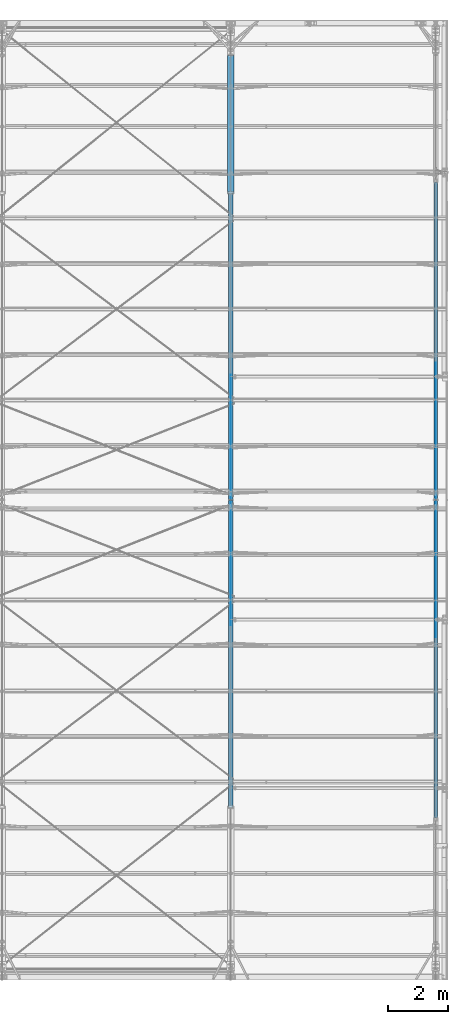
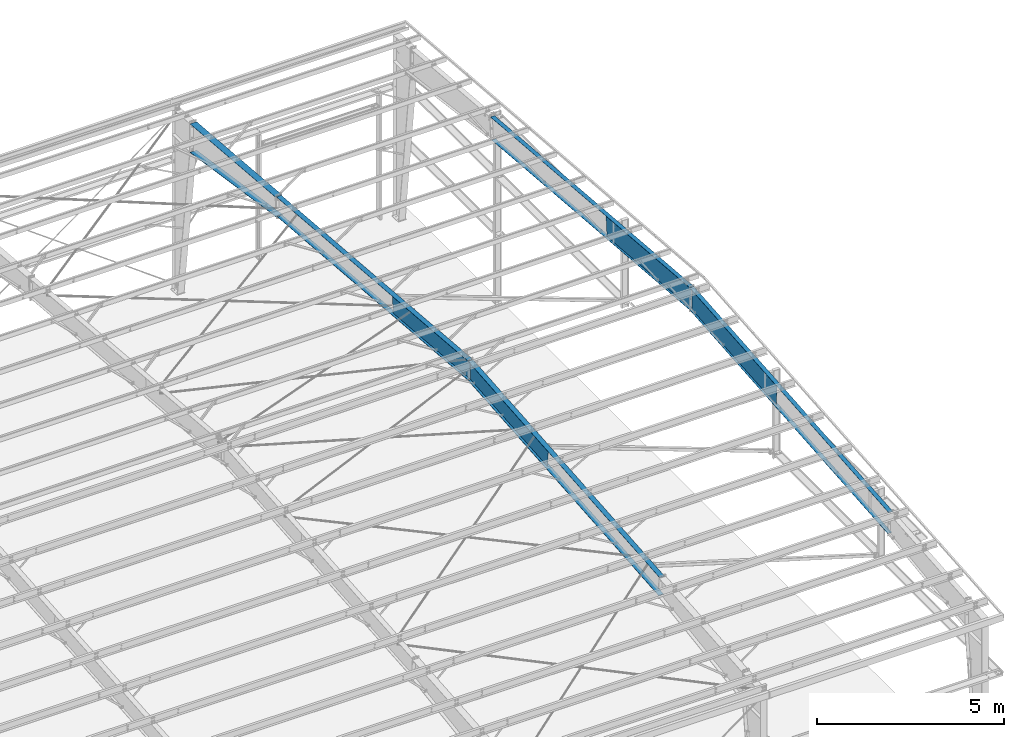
# One storey, part 59 of 185: 14 discrete accessories, 5 elements without a shape of their own.
"""IFC2X3 building model written with IfcOpenShell, lengths in millimetres."""

from ifc_helpers import new_model, si_unit, frame, origin_with_axes, origin_2d_with_axis, place, context, subcontext, project, spatial, rectangle, extrude, clip, halfspace, material, type_object, element, aggregate, save


model = new_model("IFC2X3")

# Units and contexts
model_context = context("Model", 3, precision=1e-05, world=origin_with_axes())
body_context = subcontext(model_context, "Body", "Model", "MODEL_VIEW")
ifc_project = project(units=[si_unit("LENGTHUNIT", "METRE", prefix="MILLI"), si_unit("AREAUNIT", "SQUARE_METRE"), si_unit("VOLUMEUNIT", "CUBIC_METRE"), si_unit("MASSUNIT", "GRAM", prefix="KILO"), si_unit("TIMEUNIT", "SECOND"), si_unit("PLANEANGLEUNIT", "RADIAN"), si_unit("SOLIDANGLEUNIT", "STERADIAN"), si_unit("THERMODYNAMICTEMPERATUREUNIT", "DEGREE_CELSIUS"), si_unit("LUMINOUSINTENSITYUNIT", "LUMEN")], contexts=[model_context])

# Site, building, storey
site_placement = place(None, origin_with_axes())
site = spatial("IfcSite", under=ifc_project, at=site_placement, Name="Undefined", CompositionType="ELEMENT")
building_placement = place(site_placement, origin_with_axes())
building = spatial("IfcBuilding", under=site, at=building_placement, Name="Undefined", CompositionType="ELEMENT")
storey_placement = place(building_placement, origin_with_axes())
storey = spatial("IfcBuildingStorey", under=building, at=storey_placement, Name="Undefined", CompositionType="ELEMENT", Elevation=0.0)

# Assembly, discrete accessory
assembly_1_placement = place(storey_placement, origin_with_axes())
assembly_1 = element("IfcElementAssembly", 1, at=assembly_1_placement, inside=storey, Name="Steel Assembly", AssemblyPlace="NOTDEFINED", PredefinedType="RIGID_FRAME")
ifc_material = material(Name="STEEL/55")
discrete_accessory_type_1 = type_object("IfcDiscreteAccessoryType", Name="Outside Flange")
discrete_accessory_1_placement = place(assembly_1_placement, frame((44551.6, 16011.7886694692, 7221.59393798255), z_axis=(-1.0, 0.0, 0.0), x_axis=(0.0, 0.996545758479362, -0.0830454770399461)))
discrete_accessory_1 = element("IfcDiscreteAccessory", 2, at=discrete_accessory_1_placement, type_object=discrete_accessory_type_1, material=ifc_material, Name="Outside Flange", ObjectType="FL1/4\"X5\"", context=body_context, shape_type="SweptSolid", body=[
    extrude(rectangle(XDim=6.35, YDim=127.0, at=origin_2d_with_axis()), frame((10685.8945647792, 0.0, 0.0), z_axis=(-1.0, 0.0, 0.0), x_axis=(0.0, -1.0, 0.0)), (0.0, 0.0, 1.0), 10685.9),
])

assembly_2_placement = place(storey_placement, origin_with_axes())
assembly_2 = element("IfcElementAssembly", 3, at=assembly_2_placement, inside=storey, Name="Steel Assembly", AssemblyPlace="NOTDEFINED", PredefinedType="RIGID_FRAME")
discrete_accessory_2_placement = place(assembly_2_placement, frame((44551.6, 15992.2113305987, 7221.59393800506), z_axis=(1.0, 0.0, 0.0), x_axis=(0.0, -0.996545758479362, -0.0830454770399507)))
discrete_accessory_2 = element("IfcDiscreteAccessory", 4, at=discrete_accessory_2_placement, type_object=discrete_accessory_type_1, material=ifc_material, Name="Outside Flange", ObjectType="FL1/4\"X5\"", context=body_context, shape_type="SweptSolid", body=[
    extrude(rectangle(XDim=6.35, YDim=127.0, at=origin_2d_with_axis()), frame((10685.8945647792, 0.0, 0.0), z_axis=(-1.0, 0.0, 0.0), x_axis=(0.0, -1.0, 0.0)), (0.0, 0.0, 1.0), 10685.9),
])

assembly_3_placement = place(storey_placement, origin_with_axes())
assembly_3 = element("IfcElementAssembly", 5, at=assembly_3_placement, inside=storey, Name="Steel Assembly", AssemblyPlace="NOTDEFINED", PredefinedType="RIGID_FRAME")
discrete_accessory_3_placement = place(assembly_3_placement, frame((37719.0, 16015.0269501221, 7220.48297948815), z_axis=(-1.0, 0.0, 0.0), x_axis=(0.0, 0.996545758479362, -0.0830454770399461)))
discrete_accessory_3 = element("IfcDiscreteAccessory", 6, at=discrete_accessory_3_placement, type_object=discrete_accessory_type_1, material=ifc_material, Name="Outside Flange", ObjectType="FL5/16\"X6\"", context=body_context, shape_type="SweptSolid", body=[
    extrude(rectangle(XDim=7.874, YDim=152.4, at=origin_2d_with_axis()), frame((10276.4296125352, 1.96160351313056e-12, 0.0), z_axis=(-1.0, 0.0, 0.0), x_axis=(0.0, -1.0, 0.0)), (0.0, 0.0, 1.0), 10276.4),
])

assembly_4_placement = place(storey_placement, origin_with_axes())
assembly_4 = element("IfcElementAssembly", 7, at=assembly_4_placement, inside=storey, Name="Steel Assembly", AssemblyPlace="NOTDEFINED", PredefinedType="RIGID_FRAME")
discrete_accessory_4_placement = place(assembly_4_placement, frame((37719.0, 15988.9730499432, 7220.48297949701), z_axis=(1.0, 0.0, 0.0), x_axis=(0.0, -0.996545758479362, -0.0830454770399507)))
discrete_accessory_4 = element("IfcDiscreteAccessory", 8, at=discrete_accessory_4_placement, type_object=discrete_accessory_type_1, material=ifc_material, Name="Outside Flange", ObjectType="FL5/16\"X6\"", context=body_context, shape_type="SweptSolid", body=[
    extrude(rectangle(XDim=7.874, YDim=152.4, at=origin_2d_with_axis()), frame((10276.4296125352, 1.96160351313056e-12, 0.0), z_axis=(-1.0, 0.0, 0.0), x_axis=(0.0, -1.0, 0.0)), (0.0, 0.0, 1.0), 10276.4),
])

assembly_5_placement = place(storey_placement, origin_with_axes())
assembly_5 = element("IfcElementAssembly", 9, at=assembly_5_placement, inside=storey, Name="Steel Assembly", AssemblyPlace="NOTDEFINED", PredefinedType="RIGID_FRAME")
discrete_accessory_5_placement = place(assembly_5_placement, frame((37719.0, 26278.234081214, 6365.21571746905), z_axis=(-1.0, 0.0, 0.0), x_axis=(0.0, 0.996545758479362, -0.0830454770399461)))
discrete_accessory_5 = element("IfcDiscreteAccessory", 10, at=discrete_accessory_5_placement, type_object=discrete_accessory_type_1, material=ifc_material, Name="Outside Flange", ObjectType="FL5/16\"X8\"", context=body_context, shape_type="SweptSolid", body=[
    extrude(rectangle(XDim=7.874, YDim=203.2, at=origin_2d_with_axis()), frame((4558.68878185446, 6.32645155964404e-14, 0.0), z_axis=(-1.0, 0.0, 0.0), x_axis=(0.0, -1.0, 0.0)), (0.0, 0.0, 1.0), 4558.7),
])

# Discrete accessory
discrete_accessory_type_2 = type_object("IfcDiscreteAccessoryType", Name="Inside Flange")
discrete_accessory_6_placement = place(assembly_1_placement, frame((44551.6, 16011.7886694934, 6501.55675549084), z_axis=(-1.0, 0.0, 0.0), x_axis=(0.0, 0.996545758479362, -0.0830454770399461)))
discrete_accessory_6 = element("IfcDiscreteAccessory", 11, at=discrete_accessory_6_placement, type_object=discrete_accessory_type_2, material=ifc_material, Name="Inside Flange", ObjectType="FL1/4\"X5\"", context=body_context, shape_type="SweptSolid", body=[
    extrude(rectangle(XDim=6.35, YDim=127.0, at=origin_2d_with_axis()), frame((10626.0987314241, 0.0, 0.0), z_axis=(-1.0, 0.0, 0.0), x_axis=(0.0, -1.0, 0.0)), (0.0, 0.0, 1.0), 10626.1),
])

discrete_accessory_7_placement = place(assembly_2_placement, frame((44551.5999999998, 15992.2113305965, 6501.55675550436), z_axis=(1.0, 0.0, 0.0), x_axis=(0.0, -0.996545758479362, -0.0830454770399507)))
discrete_accessory_7 = element("IfcDiscreteAccessory", 12, at=discrete_accessory_7_placement, type_object=discrete_accessory_type_2, material=ifc_material, Name="Inside Flange", ObjectType="FL1/4\"X5\"", context=body_context, shape_type="SweptSolid", body=[
    extrude(rectangle(XDim=6.35, YDim=127.0, at=origin_2d_with_axis()), frame((10626.0987314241, 0.0, 0.0), z_axis=(-1.0, 0.0, 0.0), x_axis=(0.0, -1.0, 0.0)), (0.0, 0.0, 1.0), 10626.1),
])

discrete_accessory_8_placement = place(assembly_3_placement, frame((37719.0000000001, 16015.0955042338, 6600.03460773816), z_axis=(-1.0, 0.0, 0.0), x_axis=(0.0, 0.996545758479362, -0.0830454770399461)))
discrete_accessory_8 = element("IfcDiscreteAccessory", 13, at=discrete_accessory_8_placement, type_object=discrete_accessory_type_2, material=ifc_material, Name="Inside Flange", ObjectType="FL3/8\"X6\"", context=body_context, shape_type="SweptSolid", body=[
    extrude(rectangle(XDim=9.525, YDim=152.4, at=origin_2d_with_axis()), frame((10224.8358624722, 0.0, 0.0), z_axis=(-1.0, 0.0, 0.0), x_axis=(0.0, -1.0, 0.0)), (0.0, 0.0, 1.0), 10224.8),
])

discrete_accessory_9_placement = place(assembly_4_placement, frame((37718.9999999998, 15988.9044958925, 6600.0346077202), z_axis=(1.0, 0.0, 0.0), x_axis=(0.0, -0.996545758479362, -0.0830454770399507)))
discrete_accessory_9 = element("IfcDiscreteAccessory", 14, at=discrete_accessory_9_placement, type_object=discrete_accessory_type_2, material=ifc_material, Name="Inside Flange", ObjectType="FL3/8\"X6\"", context=body_context, shape_type="SweptSolid", body=[
    extrude(rectangle(XDim=9.525, YDim=152.4, at=origin_2d_with_axis()), frame((10224.8358624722, 0.0, 0.0), z_axis=(-1.0, 0.0, 0.0), x_axis=(0.0, -1.0, 0.0)), (0.0, 0.0, 1.0), 10224.8),
])

discrete_accessory_10_placement = place(assembly_5_placement, frame((37718.9999999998, 30820.5627257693, 5058.80982208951), z_axis=(1.0, 0.0, 0.0), x_axis=(0.0, -0.988976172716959, 0.148074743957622)))
discrete_accessory_10 = element("IfcDiscreteAccessory", 15, at=discrete_accessory_10_placement, type_object=discrete_accessory_type_2, material=ifc_material, Name="Inside Flange", ObjectType="FL1/2\"X8\"", context=body_context, shape_type="SweptSolid", body=[
    extrude(rectangle(XDim=12.7, YDim=203.2, at=origin_2d_with_axis()), frame((4644.66771051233, -1.28915425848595e-13, 0.0), z_axis=(-1.0, 0.0, 0.0), x_axis=(0.0, -1.0, 0.0)), (0.0, 0.0, 1.0), 4644.7),
])

aggregate(assembly_5, [discrete_accessory_5, discrete_accessory_10])

discrete_accessory_type_3 = type_object("IfcDiscreteAccessoryType", Name="Web")
discrete_accessory_11_placement = place(assembly_1_placement, frame((44551.6, 20556.0339867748, 6482.88823696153), z_axis=(0.0, 0.0830454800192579, 0.996545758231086), x_axis=(0.0, -0.996545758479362, 0.0830454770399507)))
discrete_accessory_11 = element("IfcDiscreteAccessory", 16, at=discrete_accessory_11_placement, type_object=discrete_accessory_type_3, material=ifc_material, Name="Web", ObjectType="PL3/16\"X28\"", context=body_context, shape_type="Clipping", body=[
    clip(extrude(rectangle(XDim=4.762, YDim=711.2, at=origin_2d_with_axis()), frame((4649.63740877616, 0.0, 0.0), z_axis=(-1.0, 0.0, 0.0), x_axis=(0.0, -1.0, 0.0)), (0.0, 0.0, 1.0), 4649.6), halfspace(frame((4589.96048226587, 0.0, 356.391007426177), z_axis=(-0.996545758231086, 0.0, 0.0830454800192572), x_axis=(0.0, -1.0, 0.0)), True)),
])

aggregate(assembly_1, [discrete_accessory_1, discrete_accessory_6, discrete_accessory_11])

discrete_accessory_12_placement = place(assembly_2_placement, frame((44551.6, 11447.9660130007, 6482.88823695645), z_axis=(0.0, -0.0830454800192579, 0.996545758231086), x_axis=(0.0, 0.996545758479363, 0.0830454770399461)))
discrete_accessory_12 = element("IfcDiscreteAccessory", 17, at=discrete_accessory_12_placement, type_object=discrete_accessory_type_3, material=ifc_material, Name="Web", ObjectType="PL3/16\"X28\"", context=body_context, shape_type="Clipping", body=[
    clip(extrude(rectangle(XDim=4.762, YDim=711.2, at=origin_2d_with_axis()), frame((4649.63740877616, 0.0, 0.0), z_axis=(-1.0, 0.0, 0.0), x_axis=(0.0, -1.0, 0.0)), (0.0, 0.0, 1.0), 4649.6), halfspace(frame((4589.96048226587, 0.0, 356.391007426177), z_axis=(-0.996545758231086, 0.0, 0.0830454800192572), x_axis=(0.0, -1.0, 0.0)), True)),
])

aggregate(assembly_2, [discrete_accessory_2, discrete_accessory_7, discrete_accessory_12])

discrete_accessory_13_placement = place(assembly_3_placement, frame((37719.0, 20155.3771358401, 6565.64664856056), z_axis=(0.0, 0.0830454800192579, 0.996545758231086), x_axis=(0.0, -0.996545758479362, 0.0830454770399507)))
discrete_accessory_13 = element("IfcDiscreteAccessory", 18, at=discrete_accessory_13_placement, type_object=discrete_accessory_type_3, material=ifc_material, Name="Web", ObjectType="PL3/16\"X24\"", context=body_context, shape_type="Clipping", body=[
    clip(extrude(rectangle(XDim=4.762, YDim=609.6, at=origin_2d_with_axis()), frame((4231.63776454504, 0.0, 5.87257709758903e-14), z_axis=(-1.0, 0.0, 0.0), x_axis=(0.0, -1.0, 0.0)), (0.0, 0.0, 1.0), 4231.6), halfspace(frame((4180.5175024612, 0.0, 305.854676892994), z_axis=(-0.996545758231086, 0.0, 0.0830454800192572), x_axis=(0.0, -1.0, 0.0)), True)),
])

aggregate(assembly_3, [discrete_accessory_3, discrete_accessory_8, discrete_accessory_13])

discrete_accessory_14_placement = place(assembly_4_placement, frame((37719.0, 11848.6228640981, 6565.64664855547), z_axis=(0.0, -0.0830454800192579, 0.996545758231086), x_axis=(0.0, 0.996545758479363, 0.0830454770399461)))
discrete_accessory_14 = element("IfcDiscreteAccessory", 19, at=discrete_accessory_14_placement, type_object=discrete_accessory_type_3, material=ifc_material, Name="Web", ObjectType="PL3/16\"X24\"", context=body_context, shape_type="Clipping", body=[
    clip(extrude(rectangle(XDim=4.762, YDim=609.6, at=origin_2d_with_axis()), frame((4231.63776454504, 0.0, 5.87257709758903e-14), z_axis=(-1.0, 0.0, 0.0), x_axis=(0.0, -1.0, 0.0)), (0.0, 0.0, 1.0), 4231.6), halfspace(frame((4180.5175024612, 0.0, 305.854676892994), z_axis=(-0.996545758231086, 0.0, 0.0830454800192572), x_axis=(0.0, -1.0, 0.0)), True)),
])

aggregate(assembly_4, [discrete_accessory_4, discrete_accessory_9, discrete_accessory_14])

save(model, "model.ifc")
